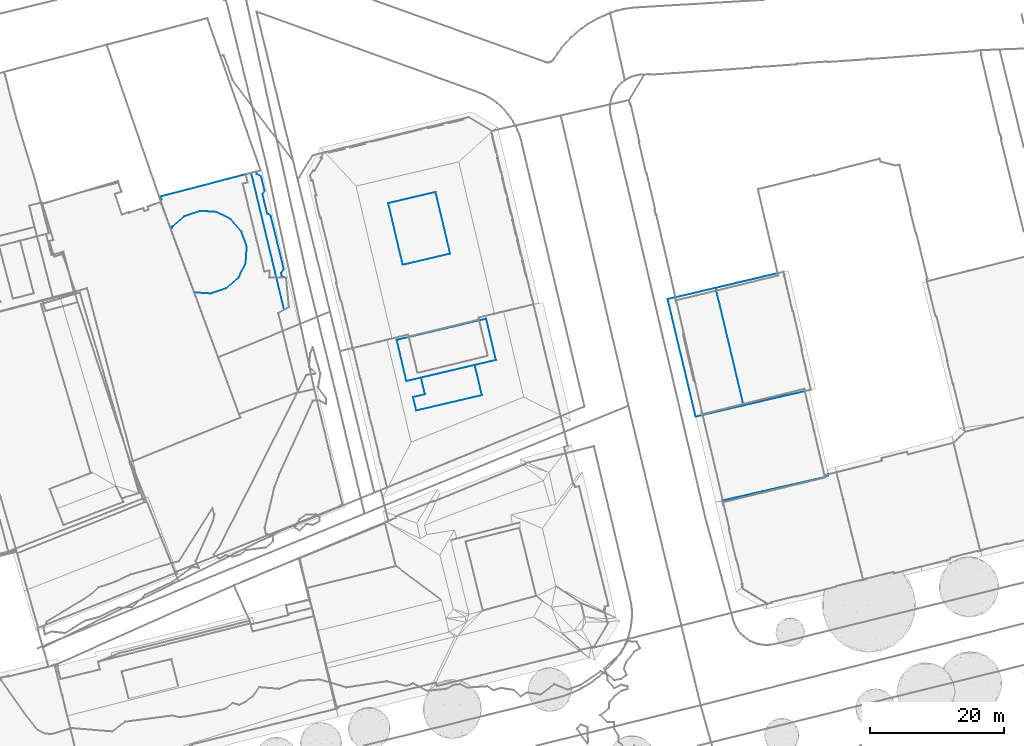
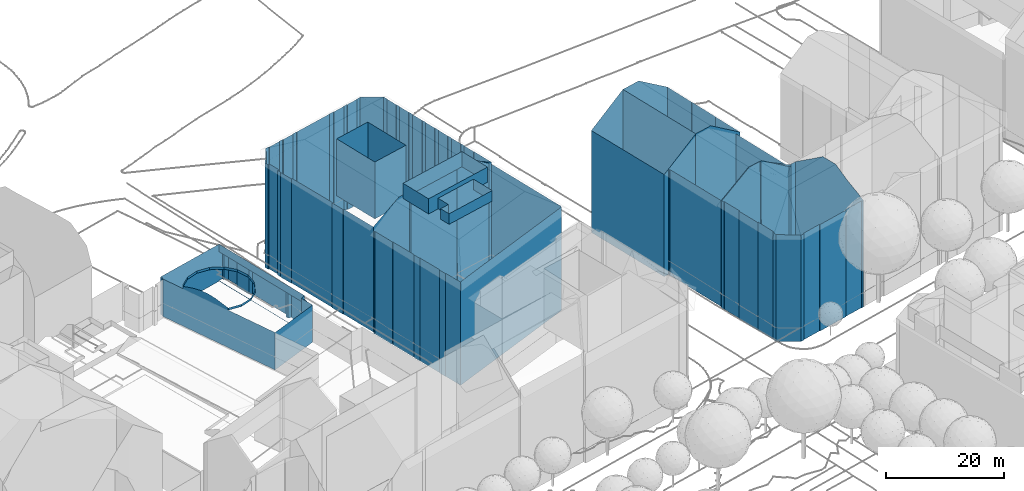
# Not in any storey, part 60 of 477: 7 walls.
"""IFC4 building model written with IfcOpenShell, lengths in metres."""

from ifc_helpers import new_model, si_unit, frame, origin_with_axes, place, context, subcontext, project, spatial, polygons, element, save


model = new_model("IFC4")

# Units and contexts
model_context = context("Model", 3, precision=1e-05, world=origin_with_axes())
body_context = subcontext(model_context, "Body", "Model", "MODEL_VIEW")
ifc_project = project(units=[si_unit("AREAUNIT", "SQUARE_METRE"), si_unit("LENGTHUNIT", "METRE")], contexts=[model_context])

# Sites, building
site_1_placement = place(None, origin_with_axes())
site_1 = spatial("IfcSite", under=ifc_project, at=site_1_placement, Name="Topoexport Site")
site_2_placement = place(site_1_placement, origin_with_axes())
site_2 = spatial("IfcSite", under=site_1, at=site_2_placement, Name="TPX_BUILDINGS")
building_1_placement = place(site_2_placement, frame((230.2577320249, 452.7801160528, 539.0125), z_axis=(0.0, 0.0, 1.0), x_axis=(1.0, 0.0, 0.0)))
building_1 = spatial("IfcBuilding", under=site_2, at=building_1_placement, Name="Building 197", CompositionType="ELEMENT")

# Wall
wall_1_placement = place(None, frame((230.2577320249, 452.7801160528, 539.0125), z_axis=(0.0, 0.0, 1.0), x_axis=(1.0, 0.0, 0.0)))
element("IfcWall", 1, at=wall_1_placement, inside=building_1, Name="Wall 0", context=body_context, shape_type="Tessellation", body=[
    polygons([(16.5880000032, 6.8554999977, 0.0), (16.5780000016, 6.927699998, 0.0), (16.5780000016, 6.927699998, 21.8199), (16.5880000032, 6.8554999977, 21.8589), (9.126000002, 5.0029000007, 21.9099), (9.126000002, 5.0029000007, 0.0), (9.1020000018, 5.0918000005, 0.0), (8.1790000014, 4.865199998, 0.0), (9.1020000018, 5.0918000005, 21.8589), (8.2260000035, 4.682599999, 21.9669), (8.1790000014, 4.865199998, 21.8639), (5.9920000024, 4.1405999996, 21.9749), (5.9920000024, 4.1405999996, 0.0), (8.2260000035, 4.682599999, 0.0), (5.943, 4.3242000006, 21.8709), (5.942900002, 4.3242000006, 0.0), (5.0940000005, 4.1191000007, 0.0), (5.0940000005, 4.1191000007, 21.8739), (5.1450000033, 3.932599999, 0.0), (5.1450000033, 3.932599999, 21.9799), (2.8790000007, 3.3896000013, 21.9849), (2.8370000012, 3.5751999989, 21.8799), (2.8370000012, 3.5751999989, 0.0), (2.8790000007, 3.3896000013, 0.0), (23.6950000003, 8.6816000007, 21.7789), (22.8540000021, 8.4745999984, 0.0), (23.6950000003, 8.6816000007, 0.0), (22.893000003, 8.3104999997, 0.0), (22.893000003, 8.3104999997, 21.8749), (22.8540000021, 8.4745999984, 21.7829), (20.6920000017, 7.7694999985, 21.8869), (20.6920000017, 7.7694999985, 0.0), (20.6500000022, 7.9316000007, 0.0), (20.6500000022, 7.9316000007, 21.7959), (19.8040000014, 7.7225999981, 21.8009), (19.8040000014, 7.7225999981, 0.0), (19.8400000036, 7.5683000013, 21.8869), (17.5990000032, 7.0155999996, 0.0), (19.8400000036, 7.5683000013, 0.0), (17.5990000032, 7.0155999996, 21.9009), (25.2350000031, -21.5371000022, 0.0), (14.745000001, -24.0771999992, 25.1226), (25.2350000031, -21.5371000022, 25.1226), (25.1650000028, -21.2373000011, 0.0), (25.1650000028, -21.2373000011, 25.1226), (27.2200000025, 5.6796999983, 0.0), (27.756000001, 3.4463, 21.9799), (27.2200000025, 5.6796999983, 21.9849), (27.2960000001, 5.6992000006, 0.0), (27.2960000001, 5.6992000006, 21.9419), (32.3320000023, -15.0274000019, 0.0), (32.8790000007, -17.2793000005, 21.8529), (32.3320000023, -15.0274000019, 21.8609), (33.3600000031, -19.259800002, 0.0), (33.3600000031, -19.259800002, 21.8449), (32.2299000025, -15.0489000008, 0.0), (32.2300000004, -15.0487999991, 21.9179), (31.6970000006, -12.8408000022, 0.0), (31.6970000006, -12.8408000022, 21.9249), (31.7940000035, -12.8145000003, 21.8699), (31.7940000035, -12.8145000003, 0.0), (31.5860000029, -11.9561000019, 21.8729), (31.5860000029, -11.9561000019, 0.0), (31.4900000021, -11.9824000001, 0.0), (31.4900000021, -11.9824000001, 21.9269), (31.0420000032, -9.7158000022, 0.0), (30.9450000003, -9.751000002, 21.9379), (31.0420000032, -9.7158000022, 21.8819), (30.9450000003, -9.751000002, 0.0), (30.8360000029, -8.8672000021, 0.0), (30.7380000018, -8.884800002, 21.9389), (30.7380000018, -8.884800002, 0.0), (30.200000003, -6.6464999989, 0.0), (30.2910000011, -6.6231000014, 21.8929), (30.2910000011, -6.6231000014, 0.0), (30.1999000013, -6.6464999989, 21.9449), (30.0790000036, -5.7529000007, 21.8969), (30.0790000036, -5.7529000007, 0.0), (29.9910000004, -5.7754000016, 21.9469), (29.4420000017, -3.5713, 0.0), (29.9910000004, -5.7754000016, 0.0), (29.5420000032, -3.5439999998, 0.0), (29.5420000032, -3.5439999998, 21.9059), (29.3340000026, -2.688500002, 0.0), (29.2390000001, -2.7109999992, 0.0), (29.2390000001, -2.7109999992, 21.9629), (28.7090000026, -0.4902000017, 21.9659), (28.7950000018, -0.4677999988, 0.0), (28.7090000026, -0.4902000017, 0.0), (28.7950000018, -0.4677999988, 21.9179), (28.5660000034, 0.4765000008, 0.0), (28.5660000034, 0.4765000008, 21.9209), (28.4730000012, 0.4550999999, 0.0), (28.4730000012, 0.4550999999, 21.9729), (27.9520000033, 2.5918000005, 21.9819), (28.0450000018, 2.6191000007, 21.9299), (27.9520000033, 2.5918000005, 0.0), (28.0450000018, 2.6191000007, 0.0), (27.8370000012, 3.4765000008, 0.0), (27.8370000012, 3.4765000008, 21.9329), (27.756000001, 3.4463, 0.0), (0.0, 0.0, 0.0), (0.0, 0.0, 21.676), (0.193, -0.759800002, 21.684), (0.193, -0.759800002, 0.0), (0.3900000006, -0.7080000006, 21.795), (0.3900000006, -0.7080000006, 0.0), (0.9550000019, -2.9834000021, 0.0), (0.7440000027, -3.0401000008, 21.691), (0.7440000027, -3.0401000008, 0.0), (0.932, -3.7626999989, 0.0), (0.932, -3.7626999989, 21.7), (0.8920000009, -3.7793000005, 0.0), (1.5210000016, -6.313500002, 0.0), (0.8920000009, -3.7793000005, 21.677), (1.5210000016, -6.313500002, 21.694), (1.6220000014, -6.2890999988, 0.0), (1.6220000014, -6.2890999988, 21.7509), (4.0050000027, -16.0331999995, 21.7969), (4.0050000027, -16.0331999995, 0.0), (3.9150000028, -16.066399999, 0.0), (3.9150000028, -16.066399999, 21.7449), (4.563000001, -18.7061000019, 0.0), (4.563000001, -18.7061000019, 21.7589), (4.6691000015, -18.6816000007, 0.0), (6.3790000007, -25.7998000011, 0.0), (5.7700000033, -23.2666000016, 21.8289), (6.3790000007, -25.7998000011, 21.8349), (5.5080000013, -22.1737999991, 0.0), (4.6690000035, -18.6816999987, 21.8179), (2.0240000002, 3.378899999, 21.801), (1.6120000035, 2.682599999, 21.784), (1.6120000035, 2.682599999, 0.0), (2.0240000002, 3.378899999, 0.0), (1.7870000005, 2.5702999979, 21.8889), (1.7870000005, 2.5702999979, 0.0), (0.5960000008, 0.5975999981, 21.8309), (0.5960000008, 0.5975999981, 0.0), (0.4340000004, 0.7080000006, 0.0), (0.4340000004, 0.7080000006, 21.733), (20.9200000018, -11.6895000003, 0.0), (18.75, -2.4805000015, 0.497), (20.9200000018, -11.6895000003, 0.497), (20.9200000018, -11.6895000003, 13.3077), (18.75, -2.4805000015, 25.1226), (20.9200000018, -11.6895000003, 25.1226), (13.8490000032, -13.3555000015, 0.0), (13.8490000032, -13.3555000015, 0.497), (13.8490000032, -13.3555000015, 13.3077), (13.8490000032, -13.3555000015, 25.1226), (11.6790000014, -4.1464999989, 13.3077), (11.6790000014, -4.1464999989, 25.1226), (11.6790000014, -4.1464999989, 0.0), (11.6790000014, -4.1464999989, 0.497), (18.75, -2.4805000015, 0.0), (18.75, -2.4805000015, 13.3077), (2.2350000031, 3.4296999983, 21.8829), (27.074000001, 6.6162, 21.9039), (23.8570000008, 8.5830000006, 21.8509), (27.074000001, 6.6162, 0.0), (14.6650000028, -23.7774000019, 25.1226), (12.2280000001, -24.3720999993, 0.0), (12.2280000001, -24.3720999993, 25.1226), (14.745000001, -24.0771999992, 0.0), (14.6650000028, -23.7774000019, 0.0), (27.5240000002, -20.6680000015, 25.1226), (27.5240000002, -20.6680000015, 0.0), (27.1000000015, 6.5088, 21.9449), (0.0490000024, 0.0800999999, 21.712), (17.5710000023, 7.1728000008, 21.8139), (17.5710000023, 7.1728000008, 0.0), (30.8360000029, -8.8672000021, 21.8849), (29.4420000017, -3.5713, 21.9619), (29.3340000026, -2.688500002, 21.9089), (0.9550000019, -2.9834000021, 21.8099)], [[[3, 2, 1]], [[6, 5, 4]], [[4, 1, 6]], [[5, 6, 7]], [[9, 7, 8]], [[11, 8, 10]], [[13, 12, 10]], [[13, 10, 14]], [[16, 15, 12]], [[12, 13, 16]], [[18, 16, 17]], [[15, 16, 18]], [[20, 18, 19]], [[19, 18, 17]], [[23, 22, 21]], [[21, 24, 23]], [[27, 26, 25]], [[29, 26, 28]], [[30, 26, 29]], [[32, 31, 28]], [[29, 28, 31]], [[31, 32, 33]], [[36, 35, 34]], [[37, 35, 36]], [[40, 39, 38]], [[43, 42, 41]], [[45, 43, 44]], [[48, 47, 46]], [[50, 46, 49]], [[50, 48, 46]], [[53, 52, 51]], [[52, 55, 54]], [[54, 51, 52]], [[57, 53, 56]], [[59, 57, 58]], [[57, 56, 58]], [[58, 61, 60]], [[63, 62, 61]], [[65, 62, 64]], [[64, 62, 63]], [[68, 67, 66]], [[66, 67, 69]], [[68, 66, 70]], [[72, 71, 70]], [[75, 74, 73]], [[76, 73, 74]], [[78, 77, 74]], [[74, 75, 78]], [[78, 79, 77]], [[79, 81, 80]], [[83, 80, 82]], [[83, 82, 84]], [[87, 86, 85]], [[90, 89, 88]], [[92, 88, 91]], [[95, 94, 93]], [[97, 96, 95]], [[98, 96, 97]], [[96, 98, 99]], [[47, 100, 99]], [[47, 99, 101]], [[104, 103, 102]], [[107, 106, 105]], [[106, 107, 108]], [[110, 109, 108]], [[109, 110, 111]], [[113, 112, 111]], [[116, 115, 114]], [[118, 114, 117]], [[120, 119, 117]], [[119, 118, 117]], [[122, 120, 121]], [[120, 122, 119]], [[124, 122, 123]], [[122, 121, 123]], [[125, 124, 123]], [[128, 127, 126]], [[127, 130, 129]], [[130, 125, 129]], [[133, 132, 131]], [[131, 134, 133]], [[132, 133, 135]], [[135, 133, 136]], [[135, 136, 137]], [[138, 137, 136]], [[140, 137, 139]], [[137, 138, 139]], [[143, 142, 141]], [[146, 145, 144]], [[148, 143, 147]], [[150, 146, 149]], [[152, 150, 151]], [[154, 148, 153]], [[142, 154, 155]], [[145, 152, 156]], [[23, 134, 131]], [[22, 23, 131]], [[131, 157, 22]], [[27, 25, 158]], [[158, 25, 159]], [[27, 158, 160]], [[163, 162, 161]], [[163, 126, 162]], [[128, 126, 163]], [[161, 164, 42]], [[164, 161, 165]], [[55, 166, 54]], [[44, 167, 45]], [[167, 54, 166]], [[158, 168, 160]], [[168, 49, 160]], [[50, 49, 168]], [[102, 103, 139]], [[139, 103, 169]], [[139, 169, 140]], [[4, 3, 1]], [[9, 5, 7]], [[8, 11, 9]], [[8, 14, 10]], [[24, 21, 20]], [[20, 19, 24]], [[26, 30, 25]], [[31, 33, 34]], [[34, 33, 36]], [[39, 37, 36]], [[37, 39, 40]], [[171, 170, 38]], [[40, 38, 170]], [[170, 2, 3]], [[170, 171, 2]], [[42, 164, 41]], [[43, 41, 44]], [[47, 101, 46]], [[53, 51, 56]], [[60, 59, 58]], [[60, 61, 62]], [[65, 69, 67]], [[65, 64, 69]], [[70, 172, 68]], [[172, 70, 71]], [[71, 72, 73]], [[71, 73, 76]], [[79, 78, 81]], [[80, 173, 79]], [[173, 80, 83]], [[83, 84, 174]], [[174, 85, 86]], [[174, 84, 85]], [[87, 85, 89]], [[87, 89, 90]], [[90, 88, 92]], [[92, 93, 94]], [[92, 91, 93]], [[95, 93, 97]], [[99, 100, 96]], [[105, 104, 102]], [[105, 106, 104]], [[106, 108, 175]], [[109, 175, 108]], [[109, 111, 112]], [[113, 115, 112]], [[115, 113, 114]], [[116, 114, 118]], [[124, 125, 130]], [[127, 129, 126]], [[142, 155, 141]], [[145, 156, 144]], [[143, 141, 147]], [[146, 144, 149]], [[150, 149, 151]], [[148, 147, 153]], [[154, 153, 155]], [[152, 151, 156]], [[162, 165, 161]], [[167, 166, 45]]]),
])

# Building
building_2_placement = place(site_2_placement, frame((236.6347320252, 426.9871160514, 538.7695), z_axis=(0.0, 0.0, 1.0), x_axis=(1.0, 0.0, 0.0)))
building_2 = spatial("IfcBuilding", under=site_2, at=building_2_placement, Name="Building 198", CompositionType="ELEMENT")

# Wall
wall_2_placement = place(None, frame((236.6347320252, 426.9871160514, 538.7695), z_axis=(0.0, 0.0, 1.0), x_axis=(1.0, 0.0, 0.0)))
element("IfcWall", 2, at=wall_2_placement, inside=building_2, Name="Wall 0", context=body_context, shape_type="Tessellation", body=[
    polygons([(2.376000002, -9.6816000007, 0.0), (2.7330000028, -11.1210999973, 21.329), (2.7330000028, -11.1210999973, 0.0), (2.376000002, -9.6816000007, 21.317), (2.7730000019, -11.1132999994, 21.358), (2.7730999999, -11.1136000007, 0.0), (3.8969999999, -15.7313999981, 21.382), (3.8969999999, -15.7313999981, 0.0), (3.8450000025, -15.7606999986, 21.342), (3.8449000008, -15.7606000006, 0.0), (4.2070000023, -17.2196999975, 0.0), (4.2070000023, -17.2196999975, 21.355), (4.256000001, -17.2236000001, 0.0), (5.1359999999, -20.7929999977, 10.707), (5.1359999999, -20.7929999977, 5.3535), (5.1359999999, -20.7929999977, 0.0), (4.256000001, -17.2236000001, 21.387), (5.1359999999, -20.7929999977, 21.4139), (0.0, 0.0, 21.253), (0.0730000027, -0.3017999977, 21.254), (0.0730000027, -0.3017999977, 0.0), (0.0, 0.0, 10.626), (0.1210000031, -0.2899999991, 0.0), (0.1210000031, -0.2899999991, 21.289), (1.1440000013, -4.5946999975, 21.295), (1.1440000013, -4.5946999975, 0.0), (1.1799999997, -4.5888999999, 0.0), (1.1799999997, -4.5888999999, 21.32), (2.4130000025, -9.6649999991, 21.345), (2.4130000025, -9.6649999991, 0.0), (8.3680000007, 1.7158000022, 0.0), (18.8580000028, 4.2558999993, 24.9116), (8.3680000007, 1.7158000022, 24.9116), (8.2880000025, 2.0155999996, 0.0), (8.2880000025, 2.0155999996, 24.9116), (18.8580000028, 4.2558000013, 0.0), (18.7880000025, 4.5556000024, 24.9116), (18.2190000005, -2.5136999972, 24.9116), (19.2790000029, -7.0117000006, 27.1124), (18.2190000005, -2.5136999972, 27.1124), (10.7780000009, -6.8856999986, 24.9116), (10.194000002, -4.4043000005, 27.1124), (10.7780000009, -6.8856999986, 27.1124), (9.012000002, -7.3017999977, 24.9116), (9.012000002, -7.3017999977, 27.1124), (9.4869999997, -9.3183999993, 24.9116), (9.4869999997, -9.3183999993, 27.1124), (19.2790000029, -7.0117000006, 24.9116), (6.5670000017, 1.2305000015, 24.9116), (19.9299999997, 4.379900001, 28.0713), (6.5670000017, 1.2305000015, 28.0713), (8.0160000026, -4.9169999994, 24.9116), (8.0160000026, -4.9169999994, 28.0713), (21.3790000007, -1.7685000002, 24.9116), (21.3790000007, -1.7685999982, 28.0713), (10.194000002, -4.4043000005, 24.9116), (19.9299999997, 4.379900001, 24.9116), (8.6070000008, -19.3710999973, 21.5229), (5.2550000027, -20.7441000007, 21.5019), (8.6070000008, -19.3710999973, 0.0), (31.0420000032, -10.177699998, 21.5039), (31.0420000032, -10.177699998, 0.0), (5.0970000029, 1.2393000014, 0.0), (0.0, 0.0, 0.0), (5.0970000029, 1.2393000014, 24.9116), (22.5100000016, 5.4530999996, 0.0), (18.7880000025, 4.5557000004, 0.0), (26.9830000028, 6.5331999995, 0.0), (26.9830000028, 6.5331999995, 21.7019), (22.5100000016, 5.4530999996, 24.9116), (31.0030000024, -10.0165999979, 21.6208)], [[[3, 2, 1]], [[2, 4, 1]], [[6, 5, 2]], [[2, 3, 6]], [[7, 5, 6]], [[8, 7, 6]], [[10, 9, 7]], [[10, 7, 8]], [[9, 10, 11]], [[13, 12, 11]], [[15, 14, 13]], [[16, 15, 13]], [[18, 17, 13]], [[21, 20, 19]], [[19, 22, 21]], [[20, 21, 23]], [[23, 25, 24]], [[25, 23, 26]], [[28, 25, 27]], [[25, 26, 27]], [[30, 29, 28]], [[29, 30, 4]], [[33, 32, 31]], [[35, 33, 34]], [[32, 37, 36]], [[40, 39, 38]], [[43, 42, 41]], [[45, 43, 44]], [[47, 45, 46]], [[39, 47, 48]], [[51, 50, 49]], [[53, 51, 52]], [[55, 40, 54]], [[53, 40, 55]], [[38, 54, 40]], [[42, 53, 52]], [[52, 56, 42]], [[50, 55, 57]], [[59, 18, 58]], [[62, 61, 60]], [[58, 14, 61]], [[14, 15, 61]], [[61, 15, 60]], [[15, 16, 60]], [[14, 58, 18]], [[64, 22, 63]], [[22, 34, 63]], [[19, 65, 34]], [[19, 34, 22]], [[34, 65, 35]], [[67, 37, 66]], [[69, 68, 66]], [[69, 66, 70]], [[68, 69, 61]], [[61, 69, 71]], [[61, 62, 68]], [[9, 11, 12]], [[13, 17, 12]], [[14, 18, 13]], [[22, 64, 21]], [[23, 24, 20]], [[28, 27, 30]], [[1, 4, 30]], [[32, 36, 31]], [[33, 31, 34]], [[37, 67, 36]], [[39, 48, 38]], [[42, 56, 41]], [[43, 41, 44]], [[45, 44, 46]], [[47, 46, 48]], [[50, 57, 49]], [[51, 49, 52]], [[42, 40, 53]], [[55, 54, 57]], [[37, 70, 66]]]),
])

# Building
building_3_placement = place(site_2_placement, frame((283.6617320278, 434.311316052, 538.7775), z_axis=(0.0, 0.0, 1.0), x_axis=(1.0, 0.0, 0.0)))
building_3 = spatial("IfcBuilding", under=site_2, at=building_3_placement, Name="Building 200", CompositionType="ELEMENT")

# Walls
wall_3_placement = place(None, frame((283.6617320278, 434.311316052, 538.7775), z_axis=(0.0, 0.0, 1.0), x_axis=(1.0, 0.0, 0.0)))
element("IfcWall", 3, at=wall_3_placement, inside=building_3, Name="Wall 0", context=body_context, shape_type="Tessellation", body=[
    polygons([(11.3239999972, -15.8759000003, 0.0), (4.1699999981, -17.5546999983, 21.2009), (11.3239999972, -15.8759999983, 26.1405), (4.1699999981, -17.5546999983, 0.0), (0.0, 0.0, 21.156), (11.3189999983, -15.8486000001, 0.0), (11.3189999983, -15.8486000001, 26.1405), (11.318, -15.8495999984, 0.0), (11.318, -15.8495999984, 26.1405), (7.1600000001, 1.6689999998, 0.0), (7.1600000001, 1.6689999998, 26.1705), (0.0, 0.0, 0.0)], [[[3, 2, 1]], [[2, 5, 4]], [[7, 3, 6]], [[7, 6, 8]], [[8, 9, 7]], [[11, 9, 10]], [[5, 10, 12]], [[2, 4, 1]], [[5, 12, 4]], [[3, 1, 6]], [[9, 8, 10]], [[11, 10, 5]]]),
])
wall_4_placement = place(None, frame((283.6617320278, 434.311316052, 538.7775), z_axis=(0.0, 0.0, 1.0), x_axis=(1.0, 0.0, 0.0)))
element("IfcWall", 4, at=wall_4_placement, inside=building_3, Name="Wall 1", context=body_context, shape_type="Tessellation", body=[
    polygons([(21.2190000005, -13.5634000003, 21.6669), (21.3729999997, -13.5253999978, 21.5609), (21.3729999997, -13.5252999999, 0.0), (21.1380000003, -13.5848999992, 0.0), (21.1510000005, -12.5859000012, 21.5679), (20.9780000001, -11.8506000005, 0.0), (21.1259999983, -12.4785000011, 5.3884), (18.7249999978, -1.8104999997, 0.0), (20.068, -7.615199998, 21.5519), (18.7249999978, -1.8104999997, 21.5829), (17.4149999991, 3.4922000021, 21.6659), (17.4519999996, 3.3311000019, 0.0), (17.9549999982, 1.1484999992, 21.6549), (18.0579999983, 0.7032000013, 0.0), (18.6429999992, -1.8359000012, 0.0), (18.6429999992, -1.8359000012, 21.6399), (16.4169999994, 3.8662, 0.0), (17.2630000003, 4.0577000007, 21.6829), (16.4169999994, 3.8662, 22.2649), (10.8019999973, 2.5371000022, 26.1365), (10.8019999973, 2.5371000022, 0.0), (19.9839999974, -7.6396000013, 0.0), (20.5519999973, -10.0458999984, 21.5899), (19.9839999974, -7.6396000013, 21.6099), (20.5739999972, -10.1396000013, 12.8097), (20.981999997, -11.8680999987, 21.5749), (20.7300000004, -10.7978000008, 5.3754), (20.4230000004, -9.5, 0.0), (20.068, -7.615199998, 0.0), (17.2839999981, 4.0625, 21.6689), (17.2839999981, 4.0625, 0.0), (17.4100000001, 3.5146999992, 5.4145), (17.3680000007, 3.697300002, 5.4155), (17.3539999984, 3.7588, 21.6669), (9.9450000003, 2.3330000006, 0.0), (9.9450000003, 2.3330000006, 26.1805), (20.481999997, -13.75, 0.0), (20.9039999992, -13.6435000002, 21.8849), (21.1169999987, -13.5898000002, 21.7369), (14.7309999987, -15.0731999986, 0.0), (20.481999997, -13.75, 22.1768), (14.7309999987, -15.0731999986, 26.1375), (14.2960000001, -15.1748000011, 0.0), (14.1519999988, -15.2157999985, 26.1375), (14.2960000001, -15.1748000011, 26.1375), (11.3238999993, -15.8759999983, 0.0), (11.3209999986, -15.8486000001, 26.1405), (11.3239999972, -15.8759000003, 26.1405), (11.3209999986, -15.8486999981, 0.0), (14.1519999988, -15.2157999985, 0.0), (7.1600000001, 1.6689999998, 0.0), (7.1600000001, 1.6689999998, 26.1705), (11.318, -15.8495999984, 0.0), (11.318, -15.8495999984, 26.1405)], [[[3, 2, 1]], [[3, 1, 4]], [[2, 3, 5]], [[7, 3, 6]], [[10, 9, 8]], [[13, 12, 11]], [[14, 12, 13]], [[16, 15, 13]], [[13, 15, 14]], [[19, 18, 17]], [[21, 20, 19]], [[19, 17, 21]], [[24, 23, 22]], [[23, 26, 25]], [[26, 6, 25]], [[28, 25, 27]], [[25, 6, 27]], [[27, 6, 28]], [[9, 24, 29]], [[18, 30, 17]], [[17, 30, 31]], [[33, 11, 32]], [[31, 30, 34]], [[31, 34, 33]], [[33, 32, 12]], [[11, 12, 32]], [[33, 12, 31]], [[36, 20, 35]], [[20, 21, 35]], [[4, 38, 37]], [[4, 39, 38]], [[41, 40, 37]], [[40, 41, 42]], [[45, 44, 43]], [[42, 45, 40]], [[48, 47, 46]], [[47, 49, 46]], [[44, 46, 50]], [[52, 35, 51]], [[54, 51, 53]], [[53, 47, 54]], [[47, 53, 49]], [[39, 4, 1]], [[26, 5, 7]], [[5, 3, 7]], [[26, 7, 6]], [[8, 9, 29]], [[16, 8, 15]], [[8, 16, 10]], [[23, 25, 22]], [[22, 25, 28]], [[29, 24, 22]], [[34, 11, 33]], [[41, 37, 38]], [[44, 50, 43]], [[45, 43, 40]], [[48, 46, 44]], [[36, 35, 52]], [[52, 51, 54]]]),
])

# Building
building_4_placement = place(site_2_placement, frame((291.8077320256, 404.2273160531, 538.5095), z_axis=(0.0, 0.0, 1.0), x_axis=(1.0, 0.0, 0.0)))
building_4 = spatial("IfcBuilding", under=site_2, at=building_4_placement, Name="Building 202", CompositionType="ELEMENT")

# Wall
wall_5_placement = place(None, frame((291.8077320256, 404.2273160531, 538.5095), z_axis=(0.0, 0.0, 1.0), x_axis=(1.0, 0.0, 0.0)))
element("IfcWall", 5, at=wall_5_placement, inside=building_4, Name="Wall 0", context=body_context, shape_type="Tessellation", body=[
    polygons([(9.063000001, 2.0722999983, 0.0), (9.0620000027, 2.0722999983, 25.9655), (8.9010000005, 2.0351999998, 6.4394), (8.7380000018, 1.9980999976, 26.1705), (8.7360000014, 1.9980999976, 0.0), (8.9100000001, 2.0372000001, 26.0615), (6.2960000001, 1.4395000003, 0.0), (7.7630000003, 1.7753999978, 26.1755), (6.3010000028, 1.4404999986, 26.1835), (7.2149999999, 1.6494999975, 6.5413), (6.2679999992, 1.4327000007, 26.1835), (15.813000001, 3.7529999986, 21.9279), (15.3000000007, 3.6279999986, 22.2338), (15.3000000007, 3.6279999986, 0.0), (15.813000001, 3.7529999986, 0.0), (15.3280000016, 3.5078999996, 22.2348), (15.3280000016, 3.5078999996, 0.0), (9.0769999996, 2.0762000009, 25.9565), (9.0769999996, 2.0762000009, 0.0), (6.2580000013, 1.4307000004, 0.0), (6.0510000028, 1.3838, 26.1255), (6.0510000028, 1.3838, 0.0), (6.0460000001, 1.3828999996, 0.0), (6.0410000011, 1.3818999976, 26.1265), (19.4959999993, -5.6084000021, -0.0001), (20.7900000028, -10.8104999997, 22.7808), (20.1060000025, -8.0604999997, 24.3036), (7.4020000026, -15.2635999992, -0.0002), (6.7239999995, -15.4277000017, -0.0002), (7.4020000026, -15.2635999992, 22.0647), (7.3910000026, -15.1757000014, 22.1177), (11.0260000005, -14.2635999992, 22.1367), (11.0260000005, -14.2635999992, -0.0002), (11.0580000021, -14.3377999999, -0.0002), (11.0580000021, -14.3377999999, 22.0887), (17.0270000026, -12.8465999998, -0.0001), (17.0270000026, -12.8465999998, 22.1148), (17.0069999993, -12.7675000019, 22.1648), (17.0069999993, -12.7675000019, -0.0001), (20.6480000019, -11.8671000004, -0.0001), (20.6860000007, -11.9463, -0.0001), (20.6860000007, -11.946200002, 22.1228), (21.0500000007, -11.8574000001, -0.0001), (21.0500000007, -11.8574000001, 22.1238), (20.7900000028, -10.8104999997, -0.0001), (6.688000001, -15.4052000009, 22.0827), (6.7239999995, -15.4277000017, 22.0647), (2.9930000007, -12.8242000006, 22.3138), (3.0760000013, -13.1894000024, 22.1578), (3.0760000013, -13.1894000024, 0.0), (3.0030000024, -12.8662, 0.0), (4.4620000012, -14.0399999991, 22.1297), (4.7100000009, -14.1922999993, -0.0002), (2.2900000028, 0.5234999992, 0.0), (0.0, 0.0, 22.3178), (0.0, 0.0, 0.0), (1.8210000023, 0.4160999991, 23.4657), (0.0620000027, -0.2675000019, 22.3158), (0.0650000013, -0.2802000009, 0.0), (0.1520000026, -0.6493999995, 0.0), (0.1520000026, -0.6493999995, 22.3138), (0.2241000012, -0.6279000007, 0.0), (0.2241000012, -0.6279000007, 22.3598), (1.0940000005, -4.2490000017, 0.0), (0.4180000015, -1.4365000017, 22.3578), (1.0940000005, -4.2490000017, 22.3708), (1.001000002, -4.2820999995, 22.3108), (1.001000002, -4.2822000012, 0.0), (2.0749999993, -8.807599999, 0.0), (2.0749999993, -8.807599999, 22.3238), (2.1570000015, -8.7890000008, 22.3748), (3.0, -12.4677000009, 22.3668), (2.1570000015, -8.7890000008, 0.0), (3.0, -12.4677000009, 0.0), (2.9180000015, -12.4959999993, 22.3148), (2.9180000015, -12.496199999, 0.0), (18.0820000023, 0.0762000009, 0.0), (18.6420000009, -2.1748000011, 0.0), (18.0820000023, 0.0762000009, 24.6236), (18.8720000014, -3.1005000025, 0.0), (18.6420000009, -2.1748000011, 26.1974), (19.4110000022, -5.2666000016, 26.2094), (18.8720000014, -3.1005000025, 26.2114), (15.7900000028, 3.9122000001, 0.0), (17.0490000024, 4.2276000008, 21.8489), (15.7900000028, 3.9122000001, 21.8449), (17.0490000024, 4.2276000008, 0.0), (17.068, 4.1503999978, 21.8899), (7.3910000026, -15.1757000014, -0.0002), (20.6480000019, -11.8671000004, 22.1758)], [[[3, 2, 1]], [[6, 5, 4]], [[5, 6, 3]], [[3, 1, 5]], [[9, 8, 7]], [[4, 5, 8]], [[10, 5, 7]], [[11, 9, 7]], [[14, 13, 12]], [[15, 14, 12]], [[14, 16, 13]], [[16, 14, 17]], [[19, 18, 16]], [[22, 21, 20]], [[24, 21, 23]], [[21, 22, 23]], [[27, 26, 25]], [[30, 29, 28]], [[31, 30, 28]], [[33, 32, 31]], [[35, 33, 34]], [[32, 33, 35]], [[37, 34, 36]], [[37, 35, 34]], [[37, 36, 38]], [[38, 36, 39]], [[40, 38, 39]], [[42, 40, 41]], [[44, 42, 43]], [[42, 41, 43]], [[26, 44, 45]], [[44, 43, 45]], [[29, 47, 46]], [[50, 49, 48]], [[51, 50, 48]], [[49, 50, 52]], [[52, 50, 53]], [[56, 55, 54]], [[55, 57, 54]], [[24, 23, 54]], [[56, 59, 58]], [[61, 58, 60]], [[59, 60, 58]], [[63, 60, 62]], [[66, 65, 64]], [[65, 62, 64]], [[64, 68, 67]], [[70, 67, 69]], [[69, 71, 70]], [[71, 73, 72]], [[72, 73, 74]], [[76, 75, 72]], [[72, 74, 76]], [[75, 76, 51]], [[79, 78, 77]], [[81, 80, 78]], [[83, 82, 80]], [[82, 27, 25]], [[86, 85, 84]], [[84, 85, 87]], [[12, 86, 15]], [[87, 85, 88]], [[88, 77, 87]], [[6, 2, 3]], [[8, 5, 10]], [[8, 10, 7]], [[1, 2, 18]], [[18, 19, 1]], [[17, 19, 16]], [[11, 20, 21]], [[11, 7, 20]], [[26, 45, 25]], [[47, 29, 30]], [[31, 28, 89]], [[31, 89, 33]], [[38, 40, 90]], [[40, 42, 90]], [[46, 52, 53]], [[29, 46, 53]], [[57, 24, 54]], [[55, 56, 58]], [[61, 60, 63]], [[63, 62, 65]], [[67, 66, 64]], [[69, 67, 68]], [[71, 69, 73]], [[51, 48, 75]], [[81, 78, 79]], [[83, 80, 81]], [[82, 25, 80]], [[86, 84, 15]], [[79, 77, 88]]]),
])

# Building
building_5_placement = place(site_2_placement, frame((288.8057320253, 417.0477160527, 538.6815), z_axis=(0.0, 0.0, 1.0), x_axis=(1.0, 0.0, 0.0)))
building_5 = spatial("IfcBuilding", under=site_2, at=building_5_placement, Name="Building 204", CompositionType="ELEMENT")

# Wall
wall_6_placement = place(None, frame((288.8057320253, 417.0477160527, 538.6815), z_axis=(0.0, 0.0, 1.0), x_axis=(1.0, 0.0, 0.0)))
element("IfcWall", 6, at=wall_6_placement, inside=building_5, Name="Wall 0", context=body_context, shape_type="Tessellation", body=[
    polygons([(12.0899999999, -10.7422000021, -0.0001), (9.3030000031, -11.379900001, 25.9555), (12.0899999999, -10.7422000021, 25.9555), (6.3619999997, 1.4580000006, 0.0), (9.1500000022, 2.0956999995, 25.9555), (6.3619999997, 1.4580000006, 25.9555), (18.8150000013, -9.067400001, 21.3059), (18.7920000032, -8.9072999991, 21.2979), (18.7920000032, -8.9072999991, -0.0001), (18.2660000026, -9.0390999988, -0.0001), (16.8020000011, -2.7657000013, 21.6789), (15.3370000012, 3.5135999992, 0.0), (9.1500000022, 2.0956999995, 0.0), (15.3370000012, 3.5135999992, 21.6959), (18.3300000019, -9.3125, 21.6609), (18.3300000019, -9.3125, -0.0001), (18.3020000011, -9.192400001, 21.6609), (18.3020000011, -9.192400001, -0.0001), (18.8150000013, -9.067400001, -0.0001), (0.1449999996, -0.2714999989, 21.9359), (3.0670000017, -12.6807000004, 21.9839), (3.0670000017, -12.6807000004, 0.0), (0.1449999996, -0.2714999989, 0.0), (2.9810000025, -12.7334000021, 0.0), (3.0020000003, -12.8233000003, 0.0), (2.9810000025, -12.7335000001, 21.9249), (3.0020000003, -12.8233000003, 21.9249), (9.3030000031, -11.379900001, 0.0), (0.0, 0.0, 21.8859), (0.0, 0.0, 0.0), (0.075000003, -0.2862000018, 0.0), (0.075000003, -0.2862000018, 21.8909), (18.2660000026, -9.0390999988, 21.6609)], [[[3, 2, 1]], [[6, 5, 4]], [[9, 8, 7]], [[8, 9, 10]], [[10, 12, 11]], [[5, 12, 13]], [[14, 12, 5]], [[16, 15, 3]], [[1, 16, 3]], [[16, 18, 17]], [[16, 17, 15]], [[19, 7, 18]], [[22, 21, 20]], [[22, 20, 23]], [[21, 22, 24]], [[27, 26, 25]], [[2, 25, 28]], [[25, 2, 27]], [[4, 29, 6]], [[4, 30, 29]], [[31, 29, 30]], [[23, 20, 31]], [[32, 31, 20]], [[2, 28, 1]], [[5, 13, 4]], [[9, 7, 19]], [[33, 8, 10]], [[12, 14, 11]], [[33, 10, 11]], [[17, 18, 7]], [[24, 26, 21]], [[25, 26, 24]], [[29, 31, 32]]]),
])

# Building
building_6_placement = place(site_2_placement, frame((207.923732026, 449.1404160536, 539.0145), z_axis=(0.0, 0.0, 1.0), x_axis=(1.0, 0.0, 0.0)))
building_6 = spatial("IfcBuilding", under=site_2, at=building_6_placement, Name="Building 224", CompositionType="ELEMENT")

# Wall
wall_7_placement = place(None, frame((207.923732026, 449.1404160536, 539.0145), z_axis=(0.0, 0.0, 1.0), x_axis=(1.0, 0.0, 0.0)))
element("IfcWall", 7, at=wall_7_placement, inside=building_6, Name="Wall 0", context=body_context, shape_type="Tessellation", body=[
    polygons([(12.1040000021, -4.7275000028, 7.7193), (12.8819999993, -7.0273000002, 7.7193), (12.1040000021, -4.7275000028, 8.2422), (10.504999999, -2.8993999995, 7.7233), (10.504999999, -2.8993999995, 8.2422), (8.3289999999, -1.8232000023, 7.7323), (8.3289999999, -1.8232000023, 8.2423), (5.9059999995, -1.6621000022, 7.7433), (5.9059999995, -1.6621000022, 8.2423), (3.6060000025, -2.4384000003, 7.7553), (3.6060000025, -2.4384000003, 8.2423), (1.7789999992, -4.0381000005, 7.7663), (1.7789999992, -4.0381000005, 8.2423), (1.5820000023, -4.4345000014, 7.7683), (1.5820000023, -4.4345000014, 8.2423), (5.0930000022, -13.8408000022, 7.7683), (5.0430000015, -13.8154000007, 7.7683), (5.0930000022, -13.8408000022, 8.2422), (7.5159999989, -14.0029000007, 7.7573), (7.5159999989, -14.0029000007, 8.2422), (9.8159999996, -13.2256000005, 7.7453), (9.8159999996, -13.2256000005, 8.2422), (11.6429999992, -11.6269000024, 7.7333), (11.6429999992, -11.6269000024, 8.2422), (12.7199999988, -9.451100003, 7.7243), (12.7199999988, -9.451100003, 8.2422), (12.8819999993, -7.0273000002, 8.2422), (0.182, 0.0527999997, 7.7673), (0.182, 0.0527999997, 0.0), (0.0219999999, 0.4921999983, 0.0), (0.0219999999, 0.4921999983, 7.7673), (0.0219999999, 0.4921999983, 5.8255), (0.0219999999, 0.4921999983, 2.2968), (0.0, 0.0, 7.7683), (0.0, 0.0, 0.0), (0.1110000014, -0.3192999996, 7.7683), (0.1110000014, -0.3192999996, 0.0), (0.0700000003, -0.3340000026, 4.8556), (0.0700000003, -0.3340000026, 7.7683), (18.2659999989, -19.5996000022, 0.0), (8.6290000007, -23.5361000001, 0.0), (18.2659999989, -19.5996000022, 7.7163), (17.5980000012, -16.9101000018, 0.0), (17.5980000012, -16.9101000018, 7.7143), (13.5520000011, 4.0108000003, 6.0945), (18.4649999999, -16.4189000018, 6.0944), (13.5520000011, 4.0108000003, 7.6973), (18.75, -11.6445000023, 0.127), (19.1909999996, -16.0078000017, 6.0944), (18.75, -11.6445000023, 6.0944), (18.137000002, -11.4658000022, 0.127), (18.137000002, -11.4658000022, 6.0944), (18.0260000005, -10.9834000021, 0.127), (18.0260000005, -10.9834000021, 6.0944), (18.4240000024, -10.3213, 0.127), (18.4240000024, -10.3213, 6.0944), (16.4690000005, -2.3525000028, 0.127), (16.4690000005, -2.3525000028, 6.0944), (15.9460000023, -2.0516999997, 0.127), (15.9460000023, -2.0516999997, 6.0944), (15.2420000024, 0.8213, 0.127), (15.2420000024, 0.8213, 6.0945), (15.561999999, 1.3359999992, 0.127), (15.561999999, 1.3359999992, 6.0945), (15.0500000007, 3.4638999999, 0.127), (15.0500000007, 3.4638999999, 6.0945), (14.3790000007, 3.861399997, 0.127), (14.3790000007, 3.861399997, 6.0945), (14.2890000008, 4.2021999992, 0.127), (14.2890000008, 4.2021999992, 6.0945), (13.5520000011, 4.0108000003, 0.0), (18.4649999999, -16.4189000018, 0.127), (13.5520000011, 4.0108000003, 0.1269), (3.5150000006, -9.6728000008, 9.1722), (4.0920000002, -11.2373000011, 8.9492), (3.0140000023, -8.3144000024, 9.1572), (8.6290000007, -23.5361000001, 7.7683), (5.0430000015, -13.8154000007, 8.2422), (0.8379999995, -2.4169999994, 0.0), (2.4079999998, -6.6738000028, 8.8902), (0.8379999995, -2.4169999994, 7.7683), (0.0700000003, -0.3340000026, 0.0), (19.1909999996, -16.0078000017, 0.127), (18.4649999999, -16.4189000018, 0.0), (18.4649999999, -16.4189000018, 7.7093), (0.3940000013, 0.5888999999, 0.0), (0.3940000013, 0.5888999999, 7.7653)], [[[3, 2, 1]], [[5, 3, 4]], [[7, 5, 6]], [[9, 7, 8]], [[11, 9, 10]], [[13, 11, 12]], [[15, 13, 14]], [[18, 17, 16]], [[20, 16, 19]], [[22, 19, 21]], [[24, 21, 23]], [[26, 23, 25]], [[27, 25, 2]], [[30, 29, 28]], [[32, 28, 31]], [[33, 28, 32]], [[29, 35, 34]], [[34, 35, 36]], [[36, 35, 37]], [[39, 36, 38]], [[42, 41, 40]], [[44, 40, 43]], [[47, 46, 45]], [[50, 49, 48]], [[52, 50, 51]], [[54, 52, 53]], [[56, 54, 55]], [[58, 56, 57]], [[60, 58, 59]], [[62, 60, 61]], [[64, 62, 63]], [[66, 64, 65]], [[68, 66, 67]], [[70, 68, 69]], [[73, 72, 71]], [[17, 75, 74]], [[14, 17, 74]], [[76, 14, 74]], [[41, 77, 17]], [[17, 78, 75]], [[79, 41, 17]], [[14, 76, 80]], [[15, 14, 80]], [[14, 81, 38]], [[38, 81, 39]], [[14, 38, 79]], [[38, 82, 79]], [[14, 79, 17]], [[49, 46, 72]], [[72, 83, 49]], [[84, 72, 43]], [[46, 43, 72]], [[43, 46, 44]], [[46, 85, 44]], [[45, 33, 32]], [[33, 86, 30]], [[73, 86, 33]], [[32, 31, 87]], [[87, 47, 45]], [[45, 73, 33]], [[71, 86, 73]], [[45, 69, 73]], [[32, 87, 45]], [[27, 2, 3]], [[3, 1, 4]], [[5, 4, 6]], [[7, 6, 8]], [[9, 8, 10]], [[11, 10, 12]], [[13, 12, 14]], [[78, 17, 18]], [[18, 16, 20]], [[20, 19, 22]], [[22, 21, 24]], [[24, 23, 26]], [[26, 25, 27]], [[30, 28, 33]], [[34, 28, 29]], [[36, 82, 38]], [[36, 37, 82]], [[77, 41, 42]], [[42, 40, 44]], [[85, 46, 47]], [[49, 83, 48]], [[50, 48, 51]], [[52, 51, 53]], [[54, 53, 55]], [[56, 55, 57]], [[58, 57, 59]], [[60, 59, 61]], [[62, 61, 63]], [[64, 63, 65]], [[66, 65, 67]], [[68, 67, 69]], [[72, 84, 71]], [[70, 69, 45]]]),
])

save(model, "model.ifc")
